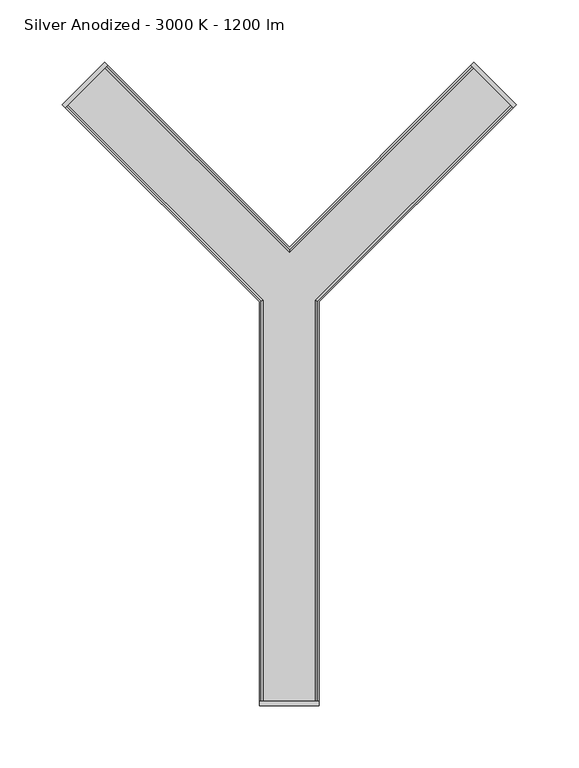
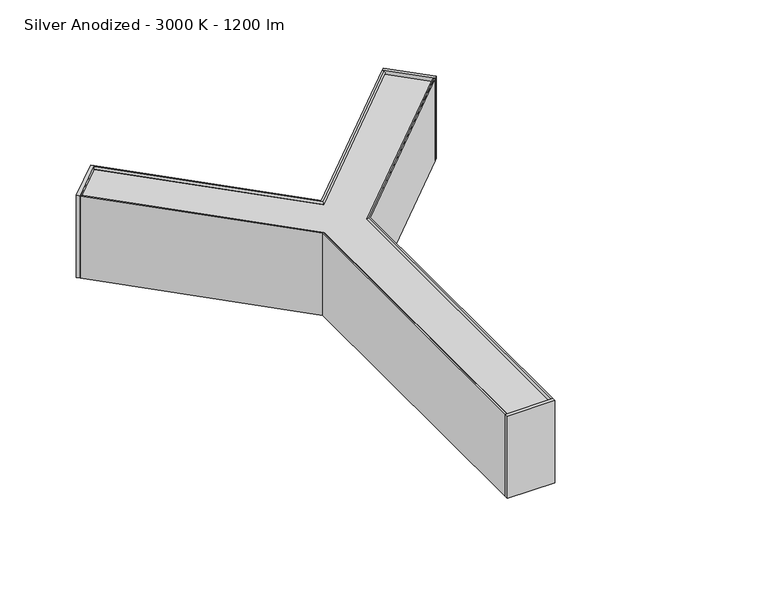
"""IFC4 building model written with IfcOpenShell, lengths in millimetres: light fixture geometry, KLUŚ - SERPENT - NT Y90 : Silver Anodized - 3000 K - 1200 lm."""

from ifc_helpers import new_model, si_unit, point, frame, frame_2d, origin, origin_with_axes, place, context, project, spatial, polyline, circle_curve, trimmed, segment, composite_curve, outline, extrude, faceted_brep, source, transform, mapped, element, save
from ifc_brep_helpers import plane_surface, revolved_surface, advanced_brep


def silver_anodized_3000_k_1200_lm_d8fd331b(model_context):
    return source(origin(), model_context, "Body", "SolidModel", [
        extrude(outline(polyline([(24.0, -333.5), (-24.0, -333.5), (-24.0, -330.0), (24.0, -330.0), (24.0, -333.5)])), frame((0.0, 0.0, 5.0), z_axis=(0.0, 0.0, 1.0), x_axis=(1.0, 0.0, 0.0)), (0.0, 0.0, 1.0), 88.0),
        extrude(outline(polyline([(148.1388707, 182.0799962), (182.0799962, 148.1388707), (179.6051224, 145.6639969), (145.6639969, 179.6051224), (148.1388707, 182.0799962)])), frame((0.0, 0.0, 5.0), z_axis=(0.0, 0.0, 1.0), x_axis=(1.0, 0.0, 0.0)), (0.0, 0.0, 1.0), 88.0),
        advanced_brep(
        [(-114.5512986, 120.2081528, 0.8), (-114.5512986, 120.2081528, 0.0), (-120.2081528, 114.5512986, 0.0), (-120.2081528, 114.5512986, 0.8), (-117.3797257, 137.1787156, 0.0), (-137.1787156, 117.3797257, 0.0), (-141.3860009, 113.1724403, 5.3344882), (-141.3860009, 113.1724403, 14.5), (-140.8203155, 113.7381258, 14.5), (-140.8203155, 113.7381258, 5.691693), (-136.9622606, 117.5961807, 0.8), (-117.5961807, 136.9622606, 0.8), (-113.7381258, 140.8203155, 5.691693), (-113.7381258, 140.8203155, 14.5), (-113.1724403, 141.3860009, 14.5), (-113.1724403, 141.3860009, 5.3344882), (-97.5807358, 117.3797257, 0.0), (-93.3734505, 121.587011, 5.3344882), (-93.3734505, 121.587011, 14.5), (-93.9391359, 121.0213256, 14.5), (-93.9391359, 121.0213256, 5.691693), (-97.7971908, 117.1632707, 0.8), (-117.1632707, 97.7971908, 0.8), (-121.0213256, 93.9391359, 5.691693), (-121.0213256, 93.9391359, 14.5), (-121.587011, 93.3734505, 14.5), (-121.587011, 93.3734505, 5.3344882), (-117.3797257, 97.5807358, 0.0)],
        [
            (0, 1),
            (1, 2, circle_curve(frame((-117.3797257, 117.3797257, 0.0), z_axis=(0.0, 0.0, -1.0), x_axis=(0.7071067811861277, 0.7071067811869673, 0.0)), 4.0)),
            (2, 3),
            (3, 0, circle_curve(frame((-117.3797257, 117.3797257, 0.8), z_axis=(0.0, 0.0, 1.0), x_axis=(0.7071067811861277, 0.7071067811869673, 0.0)), 4.0)),
            (0, 3, circle_curve(frame((-117.3797257, 117.3797257, 0.8), z_axis=(0.0, 0.0, 1.0), x_axis=(0.7071067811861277, 0.7071067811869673, 0.0)), 4.0)),
            (2, 1, circle_curve(frame((-117.3797257, 117.3797257, 0.0), z_axis=(0.0, 0.0, -1.0), x_axis=(0.7071067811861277, 0.7071067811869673, 0.0)), 4.0)),
            (4, 5),
            (5, 6),
            (6, 7),
            (7, 8),
            (8, 9),
            (9, 10),
            (10, 11),
            (11, 12),
            (12, 13),
            (13, 14),
            (14, 15),
            (15, 4),
            (16, 17),
            (17, 18),
            (18, 19),
            (19, 20),
            (20, 21),
            (21, 22),
            (22, 23),
            (23, 24),
            (24, 25),
            (25, 26),
            (26, 27),
            (27, 16),
            (4, 16),
            (27, 5),
            (26, 6),
            (25, 7),
            (24, 8),
            (23, 9),
            (22, 10),
            (21, 11),
            (20, 12),
            (19, 13),
            (18, 14),
            (17, 15),
        ],
        [
            revolved_surface(polyline([(-114.55129857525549, 120.20815282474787, 0.8), (-114.55129857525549, 120.20815282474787, 0.0)]), (-117.3797257, 117.3797257, 0.0), (0.0, 0.0, 1.0)),
            plane_surface(frame((-127.2792206, 127.2792206, 0.0), z_axis=(-0.7071067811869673, 0.7071067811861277, 0.0), x_axis=(0.0, 0.0, 1.0))),
            plane_surface(frame((-107.4802307, 107.4802307, 0.0), z_axis=(0.7071067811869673, -0.7071067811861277, 0.0), x_axis=(0.0, 0.0, 1.0))),
            plane_surface(frame((-117.3797257, 137.1787156, 0.0), z_axis=(0.0, 0.0, -1.0), x_axis=(0.7071067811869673, -0.7071067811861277, 0.0))),
            plane_surface(frame((-137.1787156, 117.3797257, 0.0), z_axis=(-0.47202587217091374, -0.47202587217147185, -0.7445691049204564), x_axis=(0.7071067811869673, -0.7071067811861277, 0.0))),
            plane_surface(frame((-141.3860009, 113.1724403, 5.3344882), z_axis=(-0.7071067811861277, -0.7071067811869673, 0.0), x_axis=(0.7071067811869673, -0.7071067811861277, 0.0))),
            plane_surface(frame((-141.3860009, 113.1724403, 14.5), z_axis=(0.0, 0.0, 1.0), x_axis=(0.7071067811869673, -0.7071067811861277, 0.0))),
            plane_surface(frame((-140.8203155, 113.7381258, 14.5), z_axis=(0.7071067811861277, 0.7071067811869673, 0.0), x_axis=(0.7071067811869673, -0.7071067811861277, 0.0))),
            plane_surface(frame((-140.8203155, 113.7381258, 5.691693), z_axis=(0.4720258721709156, 0.4720258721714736, 0.7445691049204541), x_axis=(0.7071067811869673, -0.7071067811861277, 0.0))),
            plane_surface(frame((-136.9622606, 117.5961807, 0.8), z_axis=(0.0, 0.0, 1.0), x_axis=(0.7071067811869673, -0.7071067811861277, 0.0))),
            plane_surface(frame((-117.5961807, 136.9622606, 0.8), z_axis=(-0.4720258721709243, -0.4720258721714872, 0.7445691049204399), x_axis=(0.7071067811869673, -0.7071067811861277, 0.0))),
            plane_surface(frame((-113.7381258, 140.8203155, 5.691693), z_axis=(-0.7071067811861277, -0.7071067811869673, 0.0), x_axis=(0.7071067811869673, -0.7071067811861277, 0.0))),
            plane_surface(frame((-113.7381258, 140.8203155, 14.5), z_axis=(0.0, 0.0, 1.0), x_axis=(0.7071067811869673, -0.7071067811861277, 0.0))),
            plane_surface(frame((-113.1724403, 141.3860009, 14.5), z_axis=(0.7071067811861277, 0.7071067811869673, 0.0), x_axis=(0.7071067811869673, -0.7071067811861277, 0.0))),
            plane_surface(frame((-113.1724403, 141.3860009, 5.3344882), z_axis=(0.4720258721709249, 0.47202587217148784, -0.7445691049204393), x_axis=(0.7071067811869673, -0.7071067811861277, 0.0))),
        ],
        [
            (0, [[1, 2, 3, 4]]),
            (0, [[-1, 5, -3, 6]]),
            (1, [[7, 8, 9, 10, 11, 12, 13, 14, 15, 16, 17, 18]]),
            (2, [[19, 20, 21, 22, 23, 24, 25, 26, 27, 28, 29, 30]]),
            (3, [[-7, 31, -30, 32], [-2, -6]]),
            (4, [[-8, -32, -29, 33]]),
            (5, [[-9, -33, -28, 34]]),
            (6, [[-10, -34, -27, 35]]),
            (7, [[-11, -35, -26, 36]]),
            (8, [[-12, -36, -25, 37]]),
            (9, [[-13, -37, -24, 38], [-4, -5]]),
            (10, [[-14, -38, -23, 39]]),
            (11, [[-15, -39, -22, 40]]),
            (12, [[-16, -40, -21, 41]]),
            (13, [[-17, -41, -20, 42]]),
            (14, [[-18, -42, -19, -31]]),
        ],
    ),
        advanced_brep(
        [(4.0, -236.0, 0.8), (4.0, -236.0, 0.0), (-4.0, -236.0, 0.0), (-4.0, -236.0, 0.8), (14.0, -222.0, 0.0), (-14.0, -222.0, 0.0), (-19.95, -222.0, 5.3344882), (-19.95, -222.0, 14.5), (-19.15, -222.0, 14.5), (-19.15, -222.0, 5.691693), (-13.6938864, -222.0, 0.8), (13.6938864, -222.0, 0.8), (19.15, -222.0, 5.691693), (19.15, -222.0, 14.5), (19.95, -222.0, 14.5), (19.95, -222.0, 5.3344882), (14.0, -250.0, 0.0), (19.95, -250.0, 5.3344882), (19.95, -250.0, 14.5), (19.15, -250.0, 14.5), (19.15, -250.0, 5.691693), (13.6938864, -250.0, 0.8), (-13.6938864, -250.0, 0.8), (-19.15, -250.0, 5.691693), (-19.15, -250.0, 14.5), (-19.95, -250.0, 14.5), (-19.95, -250.0, 5.3344882), (-14.0, -250.0, 0.0)],
        [
            (0, 1),
            (1, 2, circle_curve(frame((0.0, -236.0, 0.0), z_axis=(0.0, 0.0, -1.0), x_axis=(1.0, 0.0, 0.0)), 4.0)),
            (2, 3),
            (3, 0, circle_curve(frame((0.0, -236.0, 0.8), z_axis=(0.0, 0.0, 1.0), x_axis=(1.0, 0.0, 0.0)), 4.0)),
            (0, 3, circle_curve(frame((0.0, -236.0, 0.8), z_axis=(0.0, 0.0, 1.0), x_axis=(1.0, 0.0, 0.0)), 4.0)),
            (2, 1, circle_curve(frame((0.0, -236.0, 0.0), z_axis=(0.0, 0.0, -1.0), x_axis=(1.0, 0.0, 0.0)), 4.0)),
            (4, 5),
            (5, 6),
            (6, 7),
            (7, 8),
            (8, 9),
            (9, 10),
            (10, 11),
            (11, 12),
            (12, 13),
            (13, 14),
            (14, 15),
            (15, 4),
            (16, 17),
            (17, 18),
            (18, 19),
            (19, 20),
            (20, 21),
            (21, 22),
            (22, 23),
            (23, 24),
            (24, 25),
            (25, 26),
            (26, 27),
            (27, 16),
            (4, 16),
            (27, 5),
            (26, 6),
            (25, 7),
            (24, 8),
            (23, 9),
            (22, 10),
            (21, 11),
            (20, 12),
            (19, 13),
            (18, 14),
            (17, 15),
        ],
        [
            revolved_surface(polyline([(4.0, -236.0, 0.8), (4.0, -236.0, 0.0)]), (0.0, -236.0, 0.0), (0.0, 0.0, 1.0)),
            plane_surface(frame((0.0, -222.0, 0.0), z_axis=(0.0, 1.0, 0.0), x_axis=(0.0, 0.0, 1.0))),
            plane_surface(frame((0.0, -250.0, 0.0), z_axis=(0.0, -1.0, 0.0), x_axis=(0.0, 0.0, 1.0))),
            plane_surface(frame((14.0, -222.0, 0.0), z_axis=(0.0, 0.0, -1.0), x_axis=(0.0, -1.0, 0.0))),
            plane_surface(frame((-14.0, -222.0, 0.0), z_axis=(-0.6675453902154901, 0.0, -0.744569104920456), x_axis=(0.0, -1.0, 0.0))),
            plane_surface(frame((-19.95, -222.0, 5.3344882), z_axis=(-1.0, 0.0, 0.0), x_axis=(0.0, -1.0, 0.0))),
            plane_surface(frame((-19.95, -222.0, 14.5), z_axis=(0.0, 0.0, 1.0), x_axis=(0.0, -1.0, 0.0))),
            plane_surface(frame((-19.15, -222.0, 14.5), z_axis=(1.0, 0.0, 0.0), x_axis=(0.0, -1.0, 0.0))),
            plane_surface(frame((-19.15, -222.0, 5.691693), z_axis=(0.6675453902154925, 0.0, 0.7445691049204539), x_axis=(0.0, -1.0, 0.0))),
            plane_surface(frame((-13.6938864, -222.0, 0.8), z_axis=(0.0, 0.0, 1.0), x_axis=(0.0, -1.0, 0.0))),
            plane_surface(frame((13.6938864, -222.0, 0.8), z_axis=(-0.6675453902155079, 0.0, 0.7445691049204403), x_axis=(0.0, -1.0, 0.0))),
            plane_surface(frame((19.15, -222.0, 5.691693), z_axis=(-1.0, 0.0, 0.0), x_axis=(0.0, -1.0, 0.0))),
            plane_surface(frame((19.15, -222.0, 14.5), z_axis=(0.0, 0.0, 1.0), x_axis=(0.0, -1.0, 0.0))),
            plane_surface(frame((19.95, -222.0, 14.5), z_axis=(1.0, 0.0, 0.0), x_axis=(0.0, -1.0, 0.0))),
            plane_surface(frame((19.95, -222.0, 5.3344882), z_axis=(0.6675453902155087, 0.0, -0.7445691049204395), x_axis=(0.0, -1.0, 0.0))),
        ],
        [
            (0, [[1, 2, 3, 4]]),
            (0, [[-1, 5, -3, 6]]),
            (1, [[7, 8, 9, 10, 11, 12, 13, 14, 15, 16, 17, 18]]),
            (2, [[19, 20, 21, 22, 23, 24, 25, 26, 27, 28, 29, 30]]),
            (3, [[-7, 31, -30, 32], [-2, -6]]),
            (4, [[-8, -32, -29, 33]]),
            (5, [[-9, -33, -28, 34]]),
            (6, [[-10, -34, -27, 35]]),
            (7, [[-11, -35, -26, 36]]),
            (8, [[-12, -36, -25, 37]]),
            (9, [[-13, -37, -24, 38], [-4, -5]]),
            (10, [[-14, -38, -23, 39]]),
            (11, [[-15, -39, -22, 40]]),
            (12, [[-16, -40, -21, 41]]),
            (13, [[-17, -41, -20, 42]]),
            (14, [[-18, -42, -19, -31]]),
        ],
    ),
        extrude(outline(polyline([(-182.0799962, 148.1388707), (-148.1388707, 182.0799962), (-145.6639969, 179.6051224), (-179.6051224, 145.6639969), (-182.0799962, 148.1388707)])), frame((0.0, 0.0, 5.0), z_axis=(0.0, 0.0, 1.0), x_axis=(1.0, 0.0, 0.0)), (0.0, 0.0, 1.0), 88.0),
        advanced_brep(
        [(120.2081528, 114.5512986, 0.8), (120.2081528, 114.5512986, 0.0), (114.5512986, 120.2081528, 0.0), (114.5512986, 120.2081528, 0.8), (137.1787156, 117.3797257, 0.0), (117.3797257, 137.1787156, 0.0), (113.1724403, 141.3860009, 5.3344882), (113.1724403, 141.3860009, 14.5), (113.7381258, 140.8203155, 14.5), (113.7381258, 140.8203155, 5.691693), (117.5961807, 136.9622606, 0.8), (136.9622606, 117.5961807, 0.8), (140.8203155, 113.7381258, 5.691693), (140.8203155, 113.7381258, 14.5), (141.3860009, 113.1724403, 14.5), (141.3860009, 113.1724403, 5.3344882), (117.3797257, 97.5807358, 0.0), (121.587011, 93.3734505, 5.3344882), (121.587011, 93.3734505, 14.5), (121.0213256, 93.9391359, 14.5), (121.0213256, 93.9391359, 5.691693), (117.1632707, 97.7971908, 0.8), (97.7971908, 117.1632707, 0.8), (93.9391359, 121.0213256, 5.691693), (93.9391359, 121.0213256, 14.5), (93.3734505, 121.587011, 14.5), (93.3734505, 121.587011, 5.3344882), (97.5807358, 117.3797257, 0.0)],
        [
            (0, 1),
            (1, 2, circle_curve(frame((117.3797257, 117.3797257, 0.0), z_axis=(0.0, 0.0, -1.0), x_axis=(0.7071067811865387, -0.7071067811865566, 0.0)), 4.0)),
            (2, 3),
            (3, 0, circle_curve(frame((117.3797257, 117.3797257, 0.8), z_axis=(0.0, 0.0, 1.0), x_axis=(0.7071067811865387, -0.7071067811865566, 0.0)), 4.0)),
            (0, 3, circle_curve(frame((117.3797257, 117.3797257, 0.8), z_axis=(0.0, 0.0, 1.0), x_axis=(0.7071067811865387, -0.7071067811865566, 0.0)), 4.0)),
            (2, 1, circle_curve(frame((117.3797257, 117.3797257, 0.0), z_axis=(0.0, 0.0, -1.0), x_axis=(0.7071067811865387, -0.7071067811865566, 0.0)), 4.0)),
            (4, 5),
            (5, 6),
            (6, 7),
            (7, 8),
            (8, 9),
            (9, 10),
            (10, 11),
            (11, 12),
            (12, 13),
            (13, 14),
            (14, 15),
            (15, 4),
            (16, 17),
            (17, 18),
            (18, 19),
            (19, 20),
            (20, 21),
            (21, 22),
            (22, 23),
            (23, 24),
            (24, 25),
            (25, 26),
            (26, 27),
            (27, 16),
            (4, 16),
            (27, 5),
            (26, 6),
            (25, 7),
            (24, 8),
            (23, 9),
            (22, 10),
            (21, 11),
            (20, 12),
            (19, 13),
            (18, 14),
            (17, 15),
        ],
        [
            revolved_surface(polyline([(120.20815282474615, 114.55129857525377, 0.8), (120.20815282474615, 114.55129857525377, 0.0)]), (117.3797257, 117.3797257, 0.0), (0.0, 0.0, 1.0)),
            plane_surface(frame((127.2792206, 127.2792206, 0.0), z_axis=(0.7071067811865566, 0.7071067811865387, 0.0), x_axis=(0.0, 0.0, 1.0))),
            plane_surface(frame((107.4802307, 107.4802307, 0.0), z_axis=(-0.7071067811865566, -0.7071067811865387, 0.0), x_axis=(0.0, 0.0, 1.0))),
            plane_surface(frame((137.1787156, 117.3797257, 0.0), z_axis=(0.0, 0.0, -1.0000000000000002), x_axis=(-0.7071067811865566, -0.7071067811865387, 0.0))),
            plane_surface(frame((117.3797257, 137.1787156, 0.0), z_axis=(-0.472025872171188, 0.4720258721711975, -0.7445691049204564), x_axis=(-0.7071067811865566, -0.7071067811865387, 0.0))),
            plane_surface(frame((113.1724403, 141.3860009, 5.3344882), z_axis=(-0.7071067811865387, 0.7071067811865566, 0.0), x_axis=(-0.7071067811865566, -0.7071067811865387, 0.0))),
            plane_surface(frame((113.1724403, 141.3860009, 14.5), z_axis=(0.0, 0.0, 1.0000000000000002), x_axis=(-0.7071067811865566, -0.7071067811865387, 0.0))),
            plane_surface(frame((113.7381258, 140.8203155, 14.5), z_axis=(0.7071067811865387, -0.7071067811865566, 0.0), x_axis=(-0.7071067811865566, -0.7071067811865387, 0.0))),
            plane_surface(frame((113.7381258, 140.8203155, 5.691693), z_axis=(0.47202587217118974, -0.47202587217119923, 0.7445691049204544), x_axis=(-0.7071067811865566, -0.7071067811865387, 0.0))),
            plane_surface(frame((117.5961807, 136.9622606, 0.8), z_axis=(0.0, 0.0, 1.0000000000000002), x_axis=(-0.7071067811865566, -0.7071067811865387, 0.0))),
            plane_surface(frame((136.9622606, 117.5961807, 0.8), z_axis=(-0.47202587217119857, 0.47202587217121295, 0.74456910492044), x_axis=(-0.7071067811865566, -0.7071067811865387, 0.0))),
            plane_surface(frame((140.8203155, 113.7381258, 5.691693), z_axis=(-0.7071067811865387, 0.7071067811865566, 0.0), x_axis=(-0.7071067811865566, -0.7071067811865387, 0.0))),
            plane_surface(frame((140.8203155, 113.7381258, 14.5), z_axis=(0.0, 0.0, 1.0000000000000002), x_axis=(-0.7071067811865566, -0.7071067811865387, 0.0))),
            plane_surface(frame((141.3860009, 113.1724403, 14.5), z_axis=(0.7071067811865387, -0.7071067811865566, 0.0), x_axis=(-0.7071067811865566, -0.7071067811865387, 0.0))),
            plane_surface(frame((141.3860009, 113.1724403, 5.3344882), z_axis=(0.47202587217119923, -0.4720258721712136, -0.7445691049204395), x_axis=(-0.7071067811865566, -0.7071067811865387, 0.0))),
        ],
        [
            (0, [[1, 2, 3, 4]]),
            (0, [[-1, 5, -3, 6]]),
            (1, [[7, 8, 9, 10, 11, 12, 13, 14, 15, 16, 17, 18]]),
            (2, [[19, 20, 21, 22, 23, 24, 25, 26, 27, 28, 29, 30]]),
            (3, [[-7, 31, -30, 32], [-2, -6]]),
            (4, [[-8, -32, -29, 33]]),
            (5, [[-9, -33, -28, 34]]),
            (6, [[-10, -34, -27, 35]]),
            (7, [[-11, -35, -26, 36]]),
            (8, [[-12, -36, -25, 37]]),
            (9, [[-13, -37, -24, 38], [-4, -5]]),
            (10, [[-14, -38, -23, 39]]),
            (11, [[-15, -39, -22, 40]]),
            (12, [[-16, -40, -21, 41]]),
            (13, [[-17, -41, -20, 42]]),
            (14, [[-18, -42, -19, -31]]),
        ],
    ),
        faceted_brep([(176.74134, 148.5277794, 5.0), (176.74134, 148.5277794, 13.7), (178.6505283, 146.6185911, 13.7), (178.6505283, 146.6185911, 89.5), (177.5898681, 147.6792513, 91.2514719), (178.6505283, 146.6185911, 93.0), (179.6051224, 145.6639969, 93.0), (179.6051224, 145.6639969, 5.0), (19.95, -330.0, 5.0), (24.0, -330.0, 5.0), (24.0, -330.0, 93.0), (22.65, -330.0, 93.0), (21.15, -330.0, 91.2514719), (22.65, -330.0, 89.5), (22.65, -330.0, 13.7), (19.95, -330.0, 13.7), (19.95, -8.2635606, 5.0), (19.95, -8.2635606, 13.7), (22.65, -9.3819372, 13.7), (22.65, -9.3819372, 89.5), (21.15, -8.7606168, 91.2514719), (22.65, -9.3819372, 93.0), (24.0, -9.9411255, 93.0), (24.0, -9.9411255, 5.0)], [[[0, 1, 2, 3, 4, 5, 6, 7]], [[8, 9, 10, 11, 12, 13, 14, 15]], [[1, 0, 16, 17]], [[2, 1, 17, 15, 14, 18]], [[3, 2, 18, 19]], [[4, 3, 19, 20]], [[5, 4, 20, 21]], [[6, 5, 21, 11, 10, 22]], [[7, 6, 22, 23]], [[0, 7, 23, 9, 8, 16]], [[17, 16, 8, 15]], [[19, 18, 14, 13]], [[20, 19, 13, 12]], [[21, 20, 12, 11]], [[23, 22, 10, 9]]]),
        faceted_brep([(-19.95, -330.0, 5.0), (-19.95, -330.0, 13.7), (-22.65, -330.0, 13.7), (-22.65, -330.0, 89.5), (-21.15, -330.0, 91.2514719), (-22.65, -330.0, 93.0), (-24.0, -330.0, 93.0), (-24.0, -330.0, 5.0), (-176.74134, 148.5277794, 5.0), (-179.6051224, 145.6639969, 5.0), (-179.6051224, 145.6639969, 93.0), (-178.6505283, 146.6185911, 93.0), (-177.5898681, 147.6792513, 91.2514719), (-178.6505283, 146.6185911, 89.5), (-178.6505283, 146.6185911, 13.7), (-176.74134, 148.5277794, 13.7), (-19.95, -8.2635606, 5.0), (-19.95, -8.2635606, 13.7), (-22.65, -9.3819372, 13.7), (-22.65, -9.3819372, 89.5), (-21.15, -8.7606168, 91.2514719), (-22.65, -9.3819372, 93.0), (-24.0, -9.9411255, 93.0), (-24.0, -9.9411255, 5.0)], [[[0, 1, 2, 3, 4, 5, 6, 7]], [[8, 9, 10, 11, 12, 13, 14, 15]], [[1, 0, 16, 17]], [[2, 1, 17, 15, 14, 18]], [[3, 2, 18, 19]], [[4, 3, 19, 20]], [[5, 4, 20, 21]], [[6, 5, 21, 11, 10, 22]], [[7, 6, 22, 23]], [[0, 7, 23, 9, 8, 16]], [[17, 16, 8, 15]], [[19, 18, 14, 13]], [[20, 19, 13, 12]], [[21, 20, 12, 11]], [[23, 22, 10, 9]]]),
        extrude(outline(polyline([(22.65, -330.0), (-22.65, -330.0), (-22.65, -9.3819372), (-178.6505283, 146.6185911), (-146.6185911, 178.6505283), (0.0, 32.0319372), (146.6185911, 178.6505283), (178.6505283, 146.6185911), (22.65, -9.3819372), (22.65, -330.0)])), frame((0.0, 0.0, 24.0), z_axis=(0.0, 0.0, 1.0), x_axis=(1.0, 0.0, 0.0)), (0.0, 0.0, 1.0), 2.0),
        extrude(outline(polyline([(22.65, -330.0), (-22.65, -330.0), (-22.65, -9.3819372), (-178.6505283, 146.6185911), (-146.6185911, 178.6505283), (0.0, 32.0319372), (146.6185911, 178.6505283), (178.6505283, 146.6185911), (22.65, -9.3819372), (22.65, -330.0)])), frame((0.0, 0.0, 59.5), z_axis=(0.0, 0.0, 1.0), x_axis=(1.0, 0.0, 0.0)), (0.0, 0.0, 1.0), 1.5),
        extrude(outline(polyline([(-178.6505283, 146.6185911), (-146.6185911, 178.6505283), (0.0, 32.0319372), (146.6185911, 178.6505283), (178.6505283, 146.6185911), (22.65, -9.3819372), (22.65, -330.0), (-22.65, -330.0), (-22.65, -9.3819372), (-178.6505283, 146.6185911)])), frame((0.0, 0.0, 88.0), z_axis=(0.0, 0.0, 1.0), x_axis=(1.0, 0.0, 0.0)), (0.0, 0.0, 1.0), 1.5),
        faceted_brep([(-148.5277794, 176.74134, 5.0), (-148.5277794, 176.74134, 13.7), (-146.6185911, 178.6505283, 13.7), (-146.6185911, 178.6505283, 89.5), (-147.7111325, 177.5579869, 91.1989148), (-146.6185911, 178.6505283, 93.0), (-145.6639969, 179.6051224, 93.0), (-145.6639969, 179.6051224, 5.0), (148.5277794, 176.74134, 5.0), (145.6639969, 179.6051224, 5.0), (145.6639969, 179.6051224, 93.0), (146.6185911, 178.6505283, 93.0), (147.7111325, 177.5579869, 91.1989148), (146.6185911, 178.6505283, 89.5), (146.6185911, 178.6505283, 13.7), (148.5277794, 176.74134, 13.7), (0.0, 28.2135606, 5.0), (0.0, 28.2135606, 13.7), (0.0, 32.0319372, 13.7), (0.0, 32.0319372, 89.5), (0.0, 29.8468544, 91.1989148), (0.0, 32.0319372, 93.0), (0.0, 33.9411255, 93.0), (0.0, 33.9411255, 5.0)], [[[0, 1, 2, 3, 4, 5, 6, 7]], [[8, 9, 10, 11, 12, 13, 14, 15]], [[1, 0, 16, 17]], [[2, 1, 17, 15, 14, 18]], [[3, 2, 18, 19]], [[4, 3, 19, 20]], [[5, 4, 20, 21]], [[6, 5, 21, 11, 10, 22]], [[7, 6, 22, 23]], [[0, 7, 23, 9, 8, 16]], [[17, 16, 8, 15]], [[19, 18, 14, 13]], [[20, 19, 13, 12]], [[21, 20, 12, 11]], [[23, 22, 10, 9]]]),
        extrude(outline(composite_curve([segment(trimmed(circle_curve(frame_2d((0.0, -258.0)), 2.5), [point((2.5, -258.0))], [point((-2.5, -258.0))], False, "CARTESIAN"), True, "CONTINUOUS"), segment(trimmed(circle_curve(frame_2d((0.0, -258.0)), 2.5), [point((-2.5, -258.0))], [point((2.5, -258.0))], False, "CARTESIAN"), True, "CONTINUOUS")], self_intersect=False)), origin_with_axes(), (0.0, 0.0, 1.0), 24.0),
    ])


if __name__ == "__main__":
    model = new_model("IFC4")
    model_context = context("Model", 3, world=origin())
    ifc_project = project(units=[si_unit("LENGTHUNIT", "METRE", prefix="MILLI")], contexts=[model_context])
    site = spatial("IfcSite", under=ifc_project)
    building = spatial("IfcBuilding", under=site)
    placement = place(None, origin())
    silver_anodized_3000_k_1200_lm_shape = silver_anodized_3000_k_1200_lm_d8fd331b(model_context)
    element("IfcLightFixture", 1, ObjectType="KLUŚ - SERPENT - NT Y90 : Silver Anodized - 3000 K - 1200 lm", at=placement, inside=building, context=model_context, shape_type="MappedRepresentation", body=[
        mapped(silver_anodized_3000_k_1200_lm_shape, transform((0.0, 0.0, 0.0), x_axis=(1.0, 0.0, 0.0), y_axis=(0.0, 1.0, 0.0), z_axis=(0.0, 0.0, 1.0))),
    ])
    save(model, "model.ifc")
